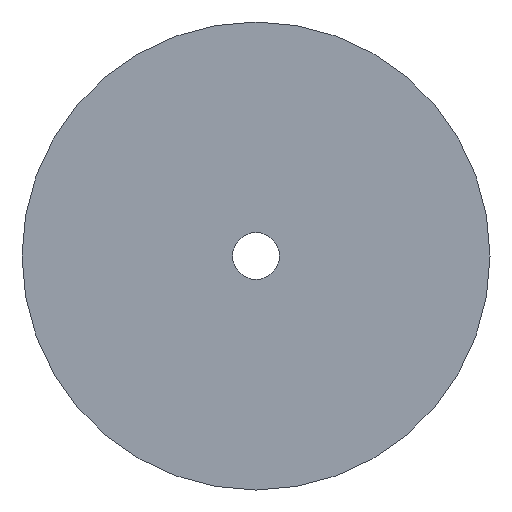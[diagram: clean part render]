
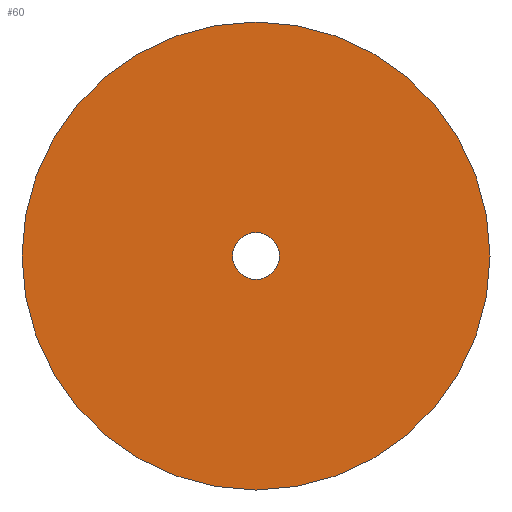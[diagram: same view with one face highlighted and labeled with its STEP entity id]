
A CAD part, front view. The second image highlights one B-rep face of the part: STEP entity #60.
In plain terms, the highlighted planar face has unit normal (0, -1, 0).
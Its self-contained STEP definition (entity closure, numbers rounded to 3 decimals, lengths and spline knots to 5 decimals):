
#60=ADVANCED_FACE('0:45',(#84,#85),#86,.F.);
#84=FACE_OUTER_BOUND('',#113,.T.);
#85=FACE_BOUND('',#114,.T.);
#86=PLANE('',#115);
#113=EDGE_LOOP('',(#186,#187));
#114=EDGE_LOOP('',(#188,#189));
#115=AXIS2_PLACEMENT_3D('',#190,#191,#192);
#186=ORIENTED_EDGE('',*,*,#225,.F.);
#187=ORIENTED_EDGE('',*,*,#221,.F.);
#188=ORIENTED_EDGE('',*,*,#231,.F.);
#189=ORIENTED_EDGE('',*,*,#209,.F.);
#190=CARTESIAN_POINT('',(0.0,-0.011,0.011));
#191=DIRECTION('',(0.0,1.0,0.));
#192=DIRECTION('',(1.0,0.0,0.0));
#209=EDGE_CURVE('0:72',#232,#235,#236,.T.);
#221=EDGE_CURVE('0:57',#256,#259,#260,.F.);
#225=EDGE_CURVE('0:57',#259,#256,#265,.F.);
#231=EDGE_CURVE('0:72',#235,#232,#271,.T.);
#232=VERTEX_POINT('',#272);
#235=VERTEX_POINT('',#276);
#236=CIRCLE('',#277,0.0055);
#256=VERTEX_POINT('',#302);
#259=VERTEX_POINT('',#306);
#260=CIRCLE('',#307,0.055);
#265=CIRCLE('',#313,0.055);
#271=CIRCLE('',#319,0.0055);
#272=CARTESIAN_POINT('',(0.0055,-0.011,0.011));
#276=CARTESIAN_POINT('',(-0.0055,-0.011,0.011));
#277=AXIS2_PLACEMENT_3D('',#321,#322,#323);
#302=CARTESIAN_POINT('',(0.055,-0.011,0.011));
#306=CARTESIAN_POINT('',(-0.055,-0.011,0.011));
#307=AXIS2_PLACEMENT_3D('',#345,#346,#347);
#313=AXIS2_PLACEMENT_3D('',#355,#356,#357);
#319=AXIS2_PLACEMENT_3D('',#373,#374,#375);
#321=CARTESIAN_POINT('',(0.0,-0.011,0.011));
#322=DIRECTION('',(0.0,-1.0,0.));
#323=DIRECTION('',(1.0,0.0,0.0));
#345=CARTESIAN_POINT('',(0.0,-0.011,0.011));
#346=DIRECTION('',(0.0,-1.0,0.));
#347=DIRECTION('',(1.0,0.0,0.0));
#355=CARTESIAN_POINT('',(0.0,-0.011,0.011));
#356=DIRECTION('',(0.0,-1.0,0.));
#357=DIRECTION('',(1.0,0.0,0.0));
#373=CARTESIAN_POINT('',(0.0,-0.011,0.011));
#374=DIRECTION('',(0.0,-1.0,0.));
#375=DIRECTION('',(1.0,0.0,0.0));
